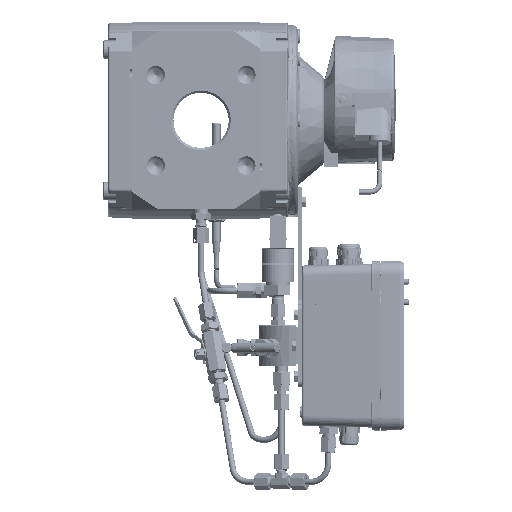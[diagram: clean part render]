
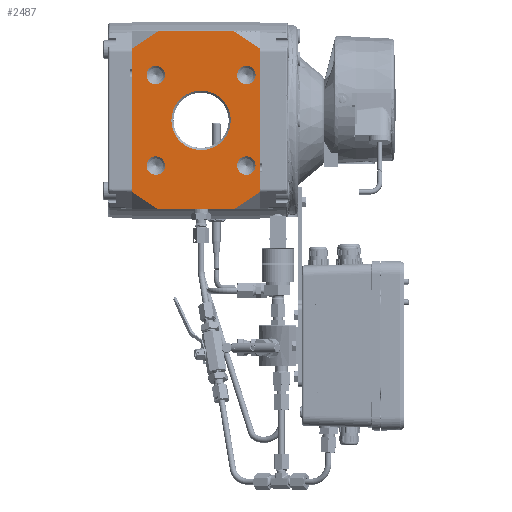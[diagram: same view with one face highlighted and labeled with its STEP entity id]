
A CAD part, left-side view. The second image highlights one B-rep face of the part: STEP entity #2487.
In plain terms, the highlighted planar face has unit normal (-1, 0, 0).
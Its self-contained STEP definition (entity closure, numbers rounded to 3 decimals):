
#2487=ADVANCED_FACE('',(#89264,#89266,#89268,#89270,#89272,#89274),#89276,.T.);
#89264=FACE_BOUND('',#89265,.T.);
#89265=EDGE_LOOP('',(#209691,#209692,#209693,#209694,#209695,#209696,#209697,#209698));
#89266=FACE_BOUND('',#89267,.T.);
#89267=EDGE_LOOP('',(#209699));
#89268=FACE_BOUND('',#89269,.T.);
#89269=EDGE_LOOP('',(#209700));
#89270=FACE_BOUND('',#89271,.T.);
#89271=EDGE_LOOP('',(#209701));
#89272=FACE_BOUND('',#89273,.T.);
#89273=EDGE_LOOP('',(#209702));
#89274=FACE_BOUND('',#89275,.T.);
#89275=EDGE_LOOP('',(#209703));
#89276=PLANE('',#89277);
#89277=AXIS2_PLACEMENT_3D('',#89278,#89279,#89280);
#89278=CARTESIAN_POINT('',(-85.5,0.,-87.));
#89279=DIRECTION('',(-1.,0.,0.));
#89280=DIRECTION('',(0.,0.,1.));
#209691=ORIENTED_EDGE('',*,*,#265838,.T.);
#209692=ORIENTED_EDGE('',*,*,#265529,.F.);
#209693=ORIENTED_EDGE('',*,*,#265825,.T.);
#209694=ORIENTED_EDGE('',*,*,#265839,.F.);
#209695=ORIENTED_EDGE('',*,*,#265840,.T.);
#209696=ORIENTED_EDGE('',*,*,#265841,.T.);
#209697=ORIENTED_EDGE('',*,*,#265842,.T.);
#209698=ORIENTED_EDGE('',*,*,#265843,.T.);
#209699=ORIENTED_EDGE('',*,*,#265844,.T.);
#209700=ORIENTED_EDGE('',*,*,#265845,.T.);
#209701=ORIENTED_EDGE('',*,*,#265846,.T.);
#209702=ORIENTED_EDGE('',*,*,#265847,.T.);
#209703=ORIENTED_EDGE('',*,*,#265848,.T.);
#265529=EDGE_CURVE('',#289317,#289319,#289320,.T.);
#265825=EDGE_CURVE('',#289317,#289832,#289833,.T.);
#265838=EDGE_CURVE('',#289857,#289319,#289858,.T.);
#265839=EDGE_CURVE('',#289859,#289832,#289860,.T.);
#265840=EDGE_CURVE('',#289859,#289861,#289862,.T.);
#265841=EDGE_CURVE('',#289861,#289863,#289864,.T.);
#265842=EDGE_CURVE('',#289863,#289865,#289866,.T.);
#265843=EDGE_CURVE('',#289865,#289857,#289867,.T.);
#265844=EDGE_CURVE('',#289868,#289868,#289869,.T.);
#265845=EDGE_CURVE('',#289870,#289870,#289871,.T.);
#265846=EDGE_CURVE('',#289872,#289872,#289873,.T.);
#265847=EDGE_CURVE('',#289874,#289874,#289875,.T.);
#265848=EDGE_CURVE('',#289876,#289876,#289877,.T.);
#289317=VERTEX_POINT('',#329488);
#289319=VERTEX_POINT('',#329492);
#289320=LINE('',#329493,#329494);
#289832=VERTEX_POINT('',#331420);
#289833=LINE('',#331421,#331422);
#289857=VERTEX_POINT('',#331482);
#289858=LINE('',#331483,#331484);
#289859=VERTEX_POINT('',#331486);
#289860=LINE('',#331487,#331488);
#289861=VERTEX_POINT('',#331490);
#289862=LINE('',#331491,#331492);
#289863=VERTEX_POINT('',#331494);
#289864=LINE('',#331495,#331496);
#289865=VERTEX_POINT('',#331498);
#289866=LINE('',#331499,#331500);
#289867=LINE('',#331502,#331503);
#289868=VERTEX_POINT('',#331505);
#289869=CIRCLE('',#331506,29.);
#289870=VERTEX_POINT('',#331510);
#289871=CIRCLE('',#331511,9.);
#289872=VERTEX_POINT('',#331515);
#289873=CIRCLE('',#331516,9.);
#289874=VERTEX_POINT('',#331520);
#289875=CIRCLE('',#331521,9.);
#289876=VERTEX_POINT('',#331525);
#289877=CIRCLE('',#331526,9.);
#329488=CARTESIAN_POINT('',(-85.5,125.,-70.));
#329492=CARTESIAN_POINT('',(-85.5,125.,70.));
#329493=CARTESIAN_POINT('',(-85.5,125.,-70.));
#329494=VECTOR('',#329495,1.);
#329495=DIRECTION('',(0.,0.,1.));
#331420=CARTESIAN_POINT('',(-85.5,99.512,-87.));
#331421=CARTESIAN_POINT('',(-85.5,125.,-70.));
#331422=VECTOR('',#331423,1.);
#331423=DIRECTION('',(0.,-0.832,-0.555));
#331482=CARTESIAN_POINT('',(-85.5,99.512,87.));
#331483=CARTESIAN_POINT('',(-85.5,99.512,87.));
#331484=VECTOR('',#331485,1.);
#331485=DIRECTION('',(0.,0.832,-0.555));
#331486=CARTESIAN_POINT('',(-85.5,25.488,-87.));
#331487=CARTESIAN_POINT('',(-85.5,25.488,-87.));
#331488=VECTOR('',#331489,1.);
#331489=DIRECTION('',(0.,1.,0.));
#331490=CARTESIAN_POINT('',(-85.5,0.,-70.));
#331491=CARTESIAN_POINT('',(-85.5,25.488,-87.));
#331492=VECTOR('',#331493,1.);
#331493=DIRECTION('',(0.,-0.832,0.555));
#331494=CARTESIAN_POINT('',(-85.5,0.,70.));
#331495=CARTESIAN_POINT('',(-85.5,0.,-70.));
#331496=VECTOR('',#331497,1.);
#331497=DIRECTION('',(0.,0.,1.));
#331498=CARTESIAN_POINT('',(-85.5,25.488,87.));
#331499=CARTESIAN_POINT('',(-85.5,0.,70.));
#331500=VECTOR('',#331501,1.);
#331501=DIRECTION('',(0.,0.832,0.555));
#331502=CARTESIAN_POINT('',(-85.5,25.488,87.));
#331503=VECTOR('',#331504,1.);
#331504=DIRECTION('',(0.,1.,0.));
#331505=CARTESIAN_POINT('',(-85.5,57.5,29.));
#331506=AXIS2_PLACEMENT_3D('',#331507,#331508,#331509);
#331507=CARTESIAN_POINT('',(-85.5,57.5,0.));
#331508=DIRECTION('',(1.,0.,0.));
#331509=DIRECTION('',(0.,0.,1.));
#331510=CARTESIAN_POINT('',(-85.5,101.7,53.2));
#331511=AXIS2_PLACEMENT_3D('',#331512,#331513,#331514);
#331512=CARTESIAN_POINT('',(-85.5,101.7,44.2));
#331513=DIRECTION('',(1.,0.,0.));
#331514=DIRECTION('',(0.,0.,1.));
#331515=CARTESIAN_POINT('',(-85.5,13.3,-53.2));
#331516=AXIS2_PLACEMENT_3D('',#331517,#331518,#331519);
#331517=CARTESIAN_POINT('',(-85.5,13.3,-44.2));
#331518=DIRECTION('',(1.,0.,0.));
#331519=DIRECTION('',(0.,0.,-1.));
#331520=CARTESIAN_POINT('',(-85.5,110.7,-44.2));
#331521=AXIS2_PLACEMENT_3D('',#331522,#331523,#331524);
#331522=CARTESIAN_POINT('',(-85.5,101.7,-44.2));
#331523=DIRECTION('',(1.,0.,0.));
#331524=DIRECTION('',(0.,1.,0.));
#331525=CARTESIAN_POINT('',(-85.5,4.3,44.2));
#331526=AXIS2_PLACEMENT_3D('',#331527,#331528,#331529);
#331527=CARTESIAN_POINT('',(-85.5,13.3,44.2));
#331528=DIRECTION('',(1.,0.,0.));
#331529=DIRECTION('',(0.,-1.,0.));
